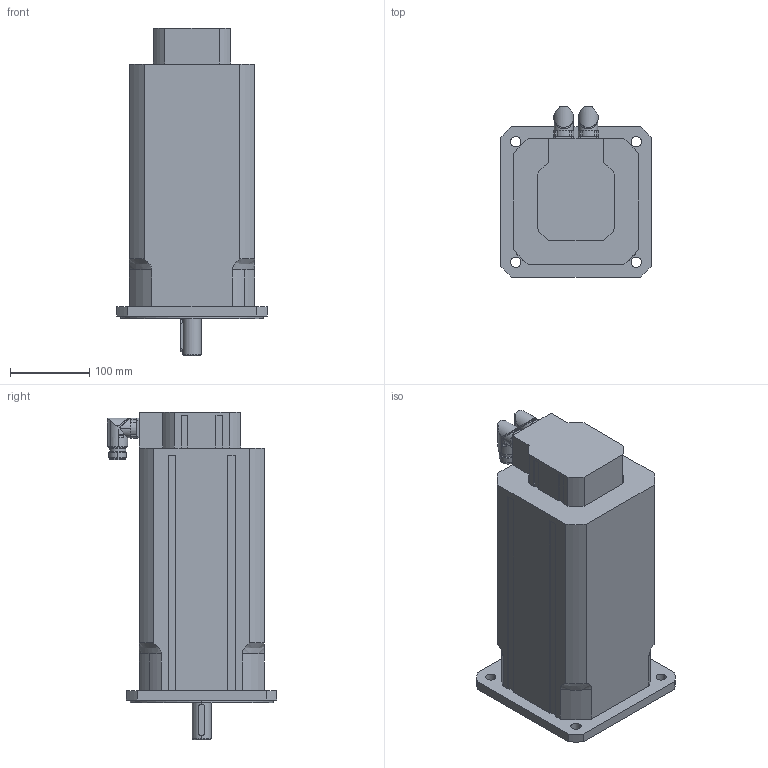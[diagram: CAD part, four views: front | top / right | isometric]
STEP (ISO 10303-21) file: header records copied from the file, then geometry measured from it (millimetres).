
FILE_DESCRIPTION(('STEP AP203'),'2;1');
FILE_NAME('MT6-2900_B.stp','2006-08-28T20:25:03',(''),(''),'2005.2.102','THINKDESIGN','');
FILE_SCHEMA(('CONFIG_CONTROL_DESIGN'));
Length unit declared in the file: millimetre
Bounding box: 190 x 214.5 x 413 mm (x, y, z)
Volume: 8411395.9 mm3; surface area: 312084.5 mm2
Topology: 3 solids, 3 shells, 258 faces, 685 edges, 443 vertices
Faces by surface type: cylinder 112, plane 108, bspline 38
Full cylindrical faces by diameter (mm): 20 x2
Entity records: 9380 total; most frequent: CARTESIAN_POINT 2860, ORIENTED_EDGE 1366, DIRECTION 1343, EDGE_CURVE 683, AXIS2_PLACEMENT_3D 500, VERTEX_POINT 443, VECTOR 343, LINE 343
